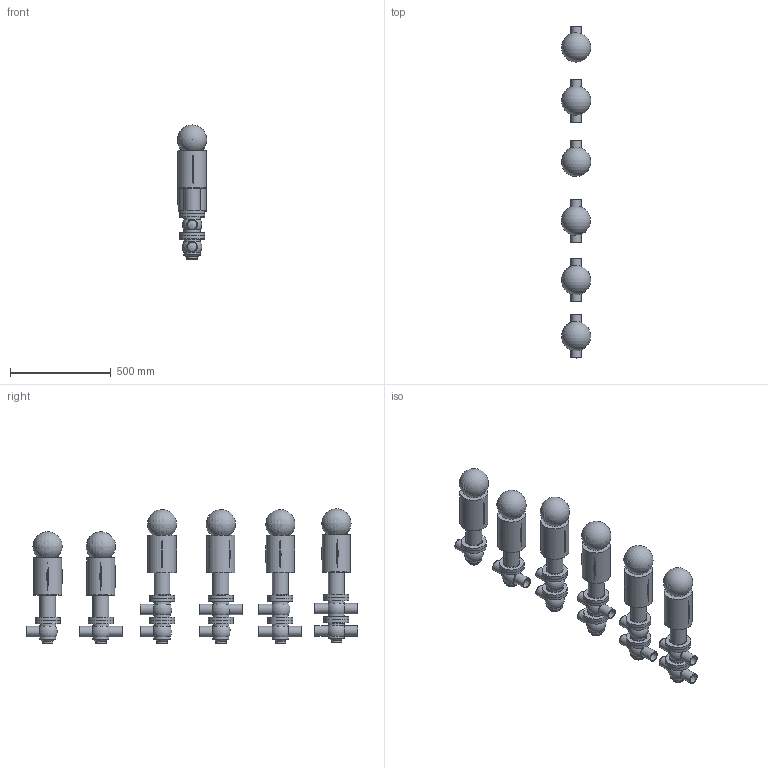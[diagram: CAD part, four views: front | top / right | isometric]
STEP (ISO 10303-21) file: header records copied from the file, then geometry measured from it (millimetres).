
FILE_DESCRIPTION(/* description */ (''),/* implementation_level */ '2;1');
FILE_NAME(/* name */ 'C:\Users\marz-m\Desktop\PDF\BBZQ 3D STEP\BBZQ-DN50-CIL.134.stp',/* time_stamp */ '2018-04-13T15:06:48+02:00',/* author */ ('marz-m'),/* organization */ (''),/* preprocessor_version */ 'ST-DEVELOPER v17',/* originating_system */ 'Autodesk Inventor 2018',/* authorisation */ '');
FILE_SCHEMA (('AUTOMOTIVE_DESIGN { 1 0 10303 214 3 1 1 }'));
Length unit declared in the file: millimetre
Products named in the file (8): BBZQ-DN50-CIL.134; COR-INF-L-BBZQ-DN052X3-SALD; COR-INF-T-BBZQ-DN052X3-SALD; assemblaggio dn50 per cil 108-156; CIL134; SAGOMA-GIOTTO-; CORPO-SUP-INF-BBZQ-L-DN52X3-SALD; CORPO-SUP-INF-BBZQ-T-DN52X3-SALD
Assembly tree (28 placements, depth 2):
  BBZQ-DN50-CIL.134
    COR-INF-L-BBZQ-DN052X3-SALD  x3
    COR-INF-T-BBZQ-DN052X3-SALD  x3
    assemblaggio dn50 per cil 108-156  x6
    CIL134  x6
    SAGOMA-GIOTTO-  x6
    CORPO-SUP-INF-BBZQ-L-DN52X3-SALD  x2
    CORPO-SUP-INF-BBZQ-T-DN52X3-SALD  x2
Bounding box: 145.77 x 1644.54 x 664.82 mm (x, y, z)
Volume: 38526971.8 mm3; surface area: 2356800.1 mm2
Topology: 28 solids, 28 shells, 368 faces, 884 edges, 658 vertices
Faces by surface type: plane 109, cylinder 106, cone 66, torus 56, sphere 31
Full cylindrical faces by diameter (mm): 20 x12, 46 x21, 52 x21, 79 x6, 80 x20, 124 x20, 139 x6
Entity records: 4044 total; most frequent: CARTESIAN_POINT 1095, DIRECTION 640, ORIENTED_EDGE 480, AXIS2_PLACEMENT_3D 300, EDGE_CURVE 240, VERTEX_POINT 179, CIRCLE 160, EDGE_LOOP 133
